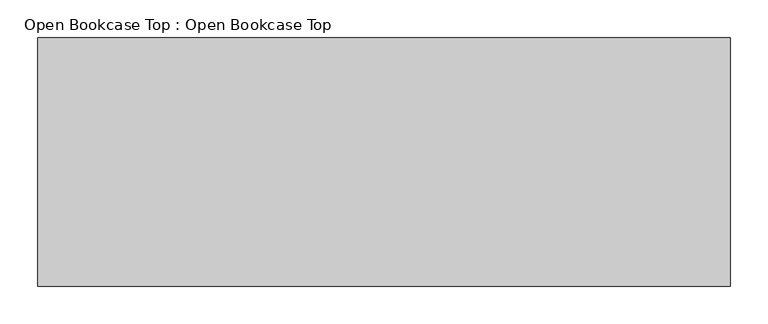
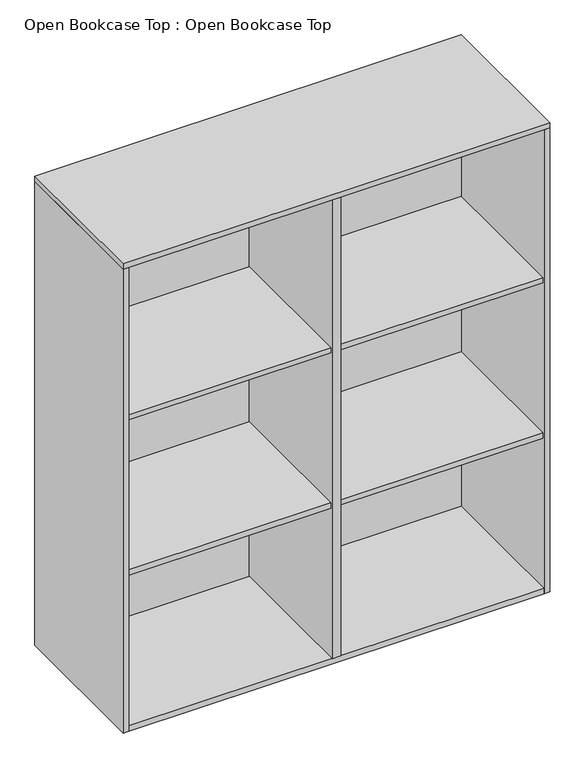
"""IFC4 building model written with IfcOpenShell, lengths in millimetres: furniture geometry, Open Bookcase Top : Open Bookcase Top."""

from ifc_helpers import new_model, si_unit, frame, origin, origin_with_axes, place, context, project, spatial, polyline, outline, extrude, source, transform, mapped, element, save


def open_bookcase_top_open_bookcase_top_8e54c097(model_context):
    return source(origin(), model_context, "Body", "SweptSolid", [
        extrude(outline(polyline([(460.0, 165.0), (460.0, -165.0), (-460.0, -165.0), (-460.0, 165.0), (460.0, 165.0)])), frame((0.0, 0.0, 1058.0000023), z_axis=(0.0, 0.0, 1.0), x_axis=(1.0, 0.0, 0.0)), (0.0, 0.0, 1.0), 11.9999977),
        extrude(outline(polyline([(-9.0, 145.0000071), (-9.0, -159.9999937), (-448.0, -159.9999937), (-448.0, 145.0000071), (-9.0, 145.0000071)])), frame((0.0, 0.0, 706.0000073), z_axis=(0.0, 0.0, 1.0), x_axis=(1.0, 0.0, 0.0)), (0.0, 0.0, 1.0), 11.9999977),
        extrude(outline(polyline([(448.0, 145.0000071), (448.0, -159.9999937), (9.0, -159.9999937), (9.0, 145.0000071), (448.0, 145.0000071)])), frame((0.0, 0.0, 706.0000073), z_axis=(0.0, 0.0, 1.0), x_axis=(1.0, 0.0, 0.0)), (0.0, 0.0, 1.0), 11.9999977),
        extrude(outline(polyline([(-448.0, 145.0000156), (-9.0, 145.0000156), (-9.0, -159.9999937), (-448.0, -159.9999937), (-448.0, 145.0000156)])), frame((0.0, 0.0, 352.0000135), z_axis=(0.0, 0.0, 1.0), x_axis=(1.0, 0.0, 0.0)), (0.0, 0.0, 1.0), 11.9999977),
        extrude(outline(polyline([(9.0, 145.0000071), (448.0, 145.0000071), (448.0, -159.9999937), (9.0, -159.9999937), (9.0, 145.0000071)])), frame((0.0, 0.0, 352.0000135), z_axis=(0.0, 0.0, 1.0), x_axis=(1.0, 0.0, 0.0)), (0.0, 0.0, 1.0), 11.9999977),
        extrude(outline(polyline([(9.0, 145.0000156), (9.0, -165.0), (-9.0, -165.0), (-9.0, 145.0000156), (9.0, 145.0000156)])), frame((0.0, 0.0, 11.9999977), z_axis=(0.0, 0.0, 1.0), x_axis=(1.0, 0.0, 0.0)), (0.0, 0.0, 1.0), 1046.0000046),
        extrude(outline(polyline([(448.0, 145.0000071), (-448.0, 145.0000071), (-448.0, 163.0000071), (448.0, 163.0000071), (448.0, 145.0000071)])), origin_with_axes(), (0.0, 0.0, 1.0), 1058.0000023),
        extrude(outline(polyline([(460.0, 165.0), (460.0, -165.0), (448.0, -165.0), (448.0, 165.0), (460.0, 165.0)])), origin_with_axes(), (0.0, 0.0, 1.0), 1058.0000023),
        extrude(outline(polyline([(-448.0, 165.0), (-448.0, -165.0), (-460.0, -165.0), (-460.0, 165.0), (-448.0, 165.0)])), origin_with_axes(), (0.0, 0.0, 1.0), 1058.0000023),
        extrude(outline(polyline([(448.0, 145.0000071), (448.0, -165.0), (-448.0, -165.0), (-448.0, 145.0000071), (448.0, 145.0000071)])), origin_with_axes(), (0.0, 0.0, 1.0), 11.9999977),
    ])


if __name__ == "__main__":
    model = new_model("IFC4")
    model_context = context("Model", 3, world=origin())
    ifc_project = project(units=[si_unit("LENGTHUNIT", "METRE", prefix="MILLI")], contexts=[model_context])
    site = spatial("IfcSite", under=ifc_project)
    building = spatial("IfcBuilding", under=site)
    placement = place(None, origin())
    open_bookcase_top_open_bookcase_top_shape = open_bookcase_top_open_bookcase_top_8e54c097(model_context)
    element("IfcFurniture", 1, ObjectType="Open Bookcase Top : Open Bookcase Top", at=placement, inside=building, context=model_context, shape_type="MappedRepresentation", body=[
        mapped(open_bookcase_top_open_bookcase_top_shape, transform((0.0, 0.0, 0.0), x_axis=(1.0, 0.0, 0.0), y_axis=(0.0, 1.0, 0.0), z_axis=(0.0, 0.0, 1.0))),
    ])
    save(model, "model.ifc")
